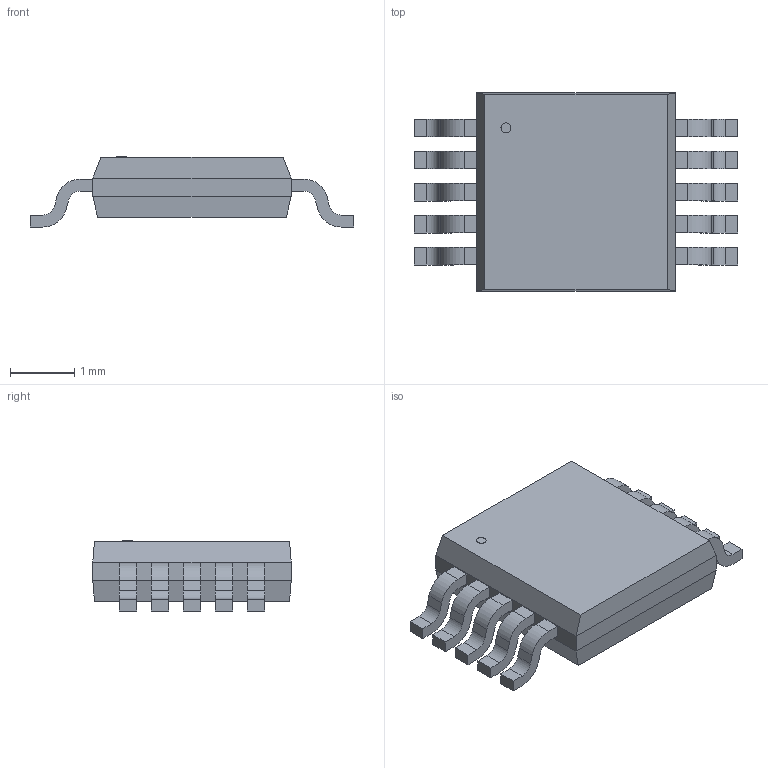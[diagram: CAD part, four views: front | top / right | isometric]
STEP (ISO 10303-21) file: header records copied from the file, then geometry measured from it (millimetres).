
FILE_DESCRIPTION(('STEP AP214'),'1');
FILE_NAME('MSOP10_MS_05-08-1661_ADI','2026-09-15T09:20:03',(''),(''),'','','');
FILE_SCHEMA(('AUTOMOTIVE_DESIGN'));
Length unit declared in the file: millimetre
Products named in the file (1): product
Bounding box: 5.05 x 3.1 x 1.09 mm (x, y, z)
Volume: 9.4 mm3; surface area: 42.4 mm2
Topology: 12 solids, 12 shells, 157 faces, 391 edges, 258 vertices
Faces by surface type: plane 116, cylinder 41
Full cylindrical faces by diameter (mm): 0.155 x1
Entity records: 4597 total; most frequent: DIRECTION 790, ORIENTED_EDGE 780, CARTESIAN_POINT 459, EDGE_CURVE 390, LINE 308, VECTOR 308, VERTEX_POINT 258, AXIS2_PLACEMENT_3D 241
